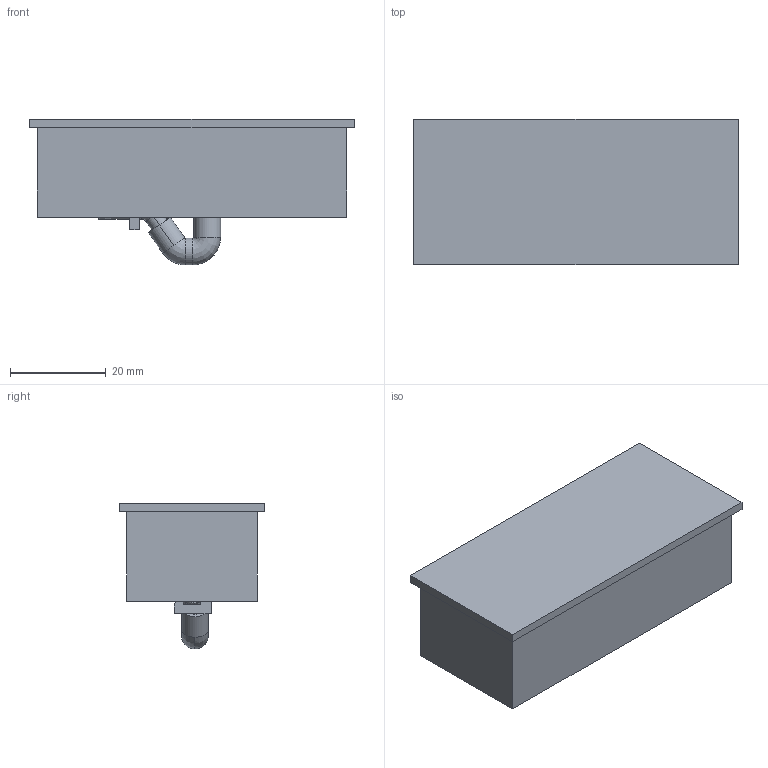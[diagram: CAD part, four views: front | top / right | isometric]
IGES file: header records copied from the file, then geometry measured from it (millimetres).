
Start section: Data from XPlus IGES,  Spatial Corp. Copyright (c) 1999-2004
Global section: file name: 9243921.igs; native system:  By Spatial Corp.; preprocessor: XPlus ACIS/IGES 3.0; author: Noname; organization: Noname; date: 20180220.172107; units: millimetre
Bounding box: 67.73 x 30.33 x 30.49 mm (x, y, z)
Surface area: 8980 mm2 (no closed solid volume)
Topology: 0 solids, 0 shells, 45 faces, 224 edges, 224 vertices
Faces by surface type: extrusion 29, revolution 16
